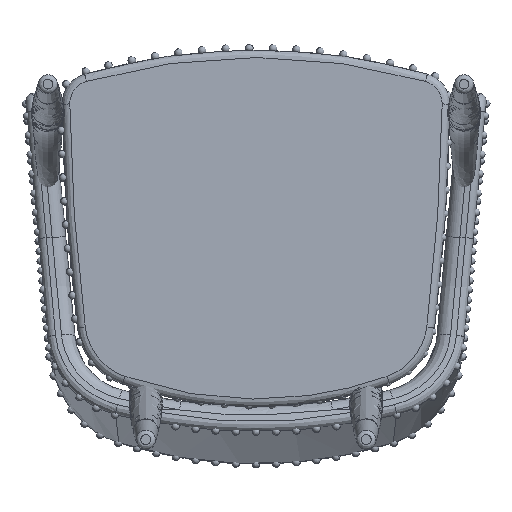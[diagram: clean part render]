
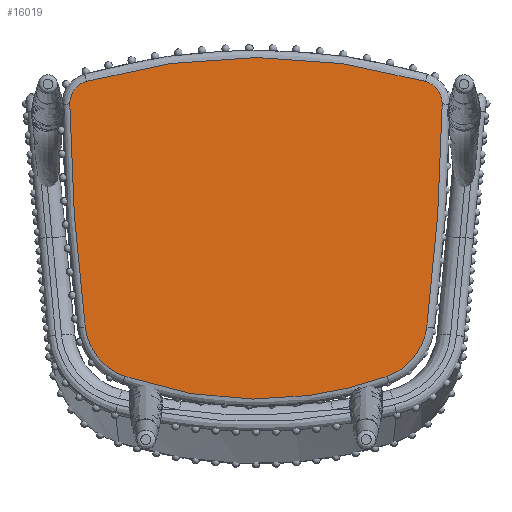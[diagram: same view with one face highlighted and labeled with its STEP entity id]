
A CAD part, front view. The second image highlights one B-rep face of the part: STEP entity #16019.
In plain terms, the highlighted planar face has unit normal (0, -0.999, 0.035).
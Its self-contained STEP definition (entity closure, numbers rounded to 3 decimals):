
#157 = VERTEX_POINT ( 'NONE', #1842 ) ;
#253 = CARTESIAN_POINT ( 'NONE',  ( 168.801, 345.255, -420.498 ) ) ;
#336 = ORIENTED_EDGE ( 'NONE', *, *, #8593, .T. ) ;
#746 =( BOUNDED_CURVE ( )  B_SPLINE_CURVE ( 3, ( #12979, #5281, #15896, #8080 ),
 .UNSPECIFIED., .F., .T. ) 
 B_SPLINE_CURVE_WITH_KNOTS ( ( 4, 4 ),
 ( 5.941, 6.625 ),
 .UNSPECIFIED. ) 
 CURVE ( )  GEOMETRIC_REPRESENTATION_ITEM ( )  RATIONAL_B_SPLINE_CURVE ( ( 1., 0.961, 0.961, 1. ) ) 
 REPRESENTATION_ITEM ( '' )  );
#798 =( BOUNDED_CURVE ( )  B_SPLINE_CURVE ( 3, ( #7278, #8560, #16245, #14061 ),
 .UNSPECIFIED., .F., .T. ) 
 B_SPLINE_CURVE_WITH_KNOTS ( ( 4, 4 ),
 ( 2.862, 3.421 ),
 .UNSPECIFIED. ) 
 CURVE ( )  GEOMETRIC_REPRESENTATION_ITEM ( )  RATIONAL_B_SPLINE_CURVE ( ( 1., 0.974, 0.974, 1. ) ) 
 REPRESENTATION_ITEM ( '' )  );
#1004 =( BOUNDED_CURVE ( )  B_SPLINE_CURVE ( 3, ( #11858, #7978, #14442, #3038 ),
 .UNSPECIFIED., .F., .T. ) 
 B_SPLINE_CURVE_WITH_KNOTS ( ( 4, 4 ),
 ( 4.701, 6.004 ),
 .UNSPECIFIED. ) 
 CURVE ( )  GEOMETRIC_REPRESENTATION_ITEM ( )  RATIONAL_B_SPLINE_CURVE ( ( 1., 0.863, 0.863, 1. ) ) 
 REPRESENTATION_ITEM ( '' )  );
#1094 = CARTESIAN_POINT ( 'NONE',  ( -232.082, 350.809, -261.462 ) ) ;
#1275 =( BOUNDED_CURVE ( )  B_SPLINE_CURVE ( 3, ( #12564, #3840, #1094, #10303 ),
 .UNSPECIFIED., .F., .T. ) 
 B_SPLINE_CURVE_WITH_KNOTS ( ( 4, 4 ),
 ( 4.724, 4.838 ),
 .UNSPECIFIED. ) 
 CURVE ( )  GEOMETRIC_REPRESENTATION_ITEM ( )  RATIONAL_B_SPLINE_CURVE ( ( 1., 0.999, 0.999, 1. ) ) 
 REPRESENTATION_ITEM ( '' )  );
#1539 = PLANE ( 'NONE',  #5764 ) ;
#1754 = VERTEX_POINT ( 'NONE', #9568 ) ;
#1842 = CARTESIAN_POINT ( 'NONE',  ( 218.095, 358.532, -40.302 ) ) ;
#1896 = FACE_OUTER_BOUND ( 'NONE', #3776, .T. ) ;
#1903 = CARTESIAN_POINT ( 'NONE',  ( -220.023, 347.479, -356.804 ) ) ;
#2302 = VERTEX_POINT ( 'NONE', #1903 ) ;
#2401 = CARTESIAN_POINT ( 'NONE',  ( 239.824, 357.512, -69.494 ) ) ;
#2554 = CARTESIAN_POINT ( 'NONE',  ( -197.283, 345.609, -410.357 ) ) ;
#2805 = CARTESIAN_POINT ( 'NONE',  ( -250., 359.939, 0. ) ) ;
#2811 = VERTEX_POINT ( 'NONE', #14909 ) ;
#2862 = DIRECTION ( 'NONE',  ( 0., -0.999, 0.035 ) ) ;
#2911 = DIRECTION ( 'NONE',  ( 0., -0.035, -0.999 ) ) ;
#3038 = CARTESIAN_POINT ( 'NONE',  ( 218.095, 358.532, -40.302 ) ) ;
#3776 = EDGE_LOOP ( 'NONE', ( #3989, #15403, #15190, #5864, #336, #7791, #16053, #12597 ) ) ;
#3840 = CARTESIAN_POINT ( 'NONE',  ( -238.689, 354.157, -165.588 ) ) ;
#3989 = ORIENTED_EDGE ( 'NONE', *, *, #9156, .T. ) ;
#4141 = EDGE_CURVE ( 'NONE', #157, #16230, #798, .T. ) ;
#4356 = EDGE_CURVE ( 'NONE', #2302, #8332, #8193, .T. ) ;
#4946 = CARTESIAN_POINT ( 'NONE',  ( -168.801, 345.255, -420.498 ) ) ;
#5141 = CARTESIAN_POINT ( 'NONE',  ( 238.689, 354.157, -165.588 ) ) ;
#5281 = CARTESIAN_POINT ( 'NONE',  ( -58.527, 343.884, -459.759 ) ) ;
#5293 = CARTESIAN_POINT ( 'NONE',  ( -168.801, 345.255, -420.498 ) ) ;
#5599 = CARTESIAN_POINT ( 'NONE',  ( 220.023, 347.479, -356.804 ) ) ;
#5713 = CARTESIAN_POINT ( 'NONE',  ( 197.283, 345.609, -410.357 ) ) ;
#5764 = AXIS2_PLACEMENT_3D ( 'NONE', #2805, #2862, #2911 ) ;
#5864 = ORIENTED_EDGE ( 'NONE', *, *, #13648, .T. ) ;
#6794 = VERTEX_POINT ( 'NONE', #253 ) ;
#7278 = CARTESIAN_POINT ( 'NONE',  ( 218.095, 358.532, -40.302 ) ) ;
#7791 = ORIENTED_EDGE ( 'NONE', *, *, #8642, .T. ) ;
#7978 = CARTESIAN_POINT ( 'NONE',  ( 239.99, 358.003, -55.445 ) ) ;
#8080 = CARTESIAN_POINT ( 'NONE',  ( 168.801, 345.255, -420.498 ) ) ;
#8193 =( BOUNDED_CURVE ( )  B_SPLINE_CURVE ( 3, ( #12649, #15357, #2554, #4946 ),
 .UNSPECIFIED., .F., .T. ) 
 B_SPLINE_CURVE_WITH_KNOTS ( ( 4, 4 ),
 ( 4.838, 5.941 ),
 .UNSPECIFIED. ) 
 CURVE ( )  GEOMETRIC_REPRESENTATION_ITEM ( )  RATIONAL_B_SPLINE_CURVE ( ( 1., 0.901, 0.901, 1. ) ) 
 REPRESENTATION_ITEM ( '' )  );
#8332 = VERTEX_POINT ( 'NONE', #5293 ) ;
#8560 = CARTESIAN_POINT ( 'NONE',  ( 74.625, 359.968, 0.837 ) ) ;
#8593 = EDGE_CURVE ( 'NONE', #2811, #13381, #12939, .T. ) ;
#8642 = EDGE_CURVE ( 'NONE', #13381, #157, #1004, .T. ) ;
#9156 = EDGE_CURVE ( 'NONE', #1754, #2302, #1275, .T. ) ;
#9508 = EDGE_CURVE ( 'NONE', #8332, #6794, #746, .T. ) ;
#9568 = CARTESIAN_POINT ( 'NONE',  ( -239.824, 357.512, -69.494 ) ) ;
#9970 = CARTESIAN_POINT ( 'NONE',  ( -218.095, 358.532, -40.302 ) ) ;
#10303 = CARTESIAN_POINT ( 'NONE',  ( -220.023, 347.479, -356.804 ) ) ;
#11449 =( BOUNDED_CURVE ( )  B_SPLINE_CURVE ( 3, ( #14603, #5713, #15947, #5599 ),
 .UNSPECIFIED., .F., .F. ) 
 B_SPLINE_CURVE_WITH_KNOTS ( ( 4, 4 ),
 ( 3.484, 4.587 ),
 .UNSPECIFIED. ) 
 CURVE ( )  GEOMETRIC_REPRESENTATION_ITEM ( )  RATIONAL_B_SPLINE_CURVE ( ( 1., 0.901, 0.901, 1. ) ) 
 REPRESENTATION_ITEM ( '' )  );
#11465 = CARTESIAN_POINT ( 'NONE',  ( 239.824, 357.512, -69.494 ) ) ;
#11858 = CARTESIAN_POINT ( 'NONE',  ( 239.824, 357.512, -69.494 ) ) ;
#11904 = CARTESIAN_POINT ( 'NONE',  ( -231.601, 358.396, -44.174 ) ) ;
#12564 = CARTESIAN_POINT ( 'NONE',  ( -239.824, 357.512, -69.494 ) ) ;
#12597 = ORIENTED_EDGE ( 'NONE', *, *, #16071, .T. ) ;
#12612 = CARTESIAN_POINT ( 'NONE',  ( 220.023, 347.479, -356.804 ) ) ;
#12649 = CARTESIAN_POINT ( 'NONE',  ( -220.023, 347.479, -356.804 ) ) ;
#12939 =( BOUNDED_CURVE ( )  B_SPLINE_CURVE ( 3, ( #12612, #16482, #5141, #2401 ),
 .UNSPECIFIED., .F., .T. ) 
 B_SPLINE_CURVE_WITH_KNOTS ( ( 4, 4 ),
 ( 1.445, 1.559 ),
 .UNSPECIFIED. ) 
 CURVE ( )  GEOMETRIC_REPRESENTATION_ITEM ( )  RATIONAL_B_SPLINE_CURVE ( ( 1., 0.999, 0.999, 1. ) ) 
 REPRESENTATION_ITEM ( '' )  );
#12979 = CARTESIAN_POINT ( 'NONE',  ( -168.801, 345.255, -420.498 ) ) ;
#13340 = CARTESIAN_POINT ( 'NONE',  ( -239.824, 357.512, -69.494 ) ) ;
#13381 = VERTEX_POINT ( 'NONE', #11465 ) ;
#13648 = EDGE_CURVE ( 'NONE', #6794, #2811, #11449, .T. ) ;
#13896 =( BOUNDED_CURVE ( )  B_SPLINE_CURVE ( 3, ( #15773, #11904, #15993, #13340 ),
 .UNSPECIFIED., .F., .F. ) 
 B_SPLINE_CURVE_WITH_KNOTS ( ( 4, 4 ),
 ( 3.421, 4.724 ),
 .UNSPECIFIED. ) 
 CURVE ( )  GEOMETRIC_REPRESENTATION_ITEM ( )  RATIONAL_B_SPLINE_CURVE ( ( 1., 0.863, 0.863, 1. ) ) 
 REPRESENTATION_ITEM ( '' )  );
#14061 = CARTESIAN_POINT ( 'NONE',  ( -218.095, 358.532, -40.302 ) ) ;
#14442 = CARTESIAN_POINT ( 'NONE',  ( 231.601, 358.396, -44.174 ) ) ;
#14603 = CARTESIAN_POINT ( 'NONE',  ( 168.801, 345.255, -420.498 ) ) ;
#14909 = CARTESIAN_POINT ( 'NONE',  ( 220.023, 347.479, -356.804 ) ) ;
#15190 = ORIENTED_EDGE ( 'NONE', *, *, #9508, .T. ) ;
#15357 = CARTESIAN_POINT ( 'NONE',  ( -216.229, 346.432, -386.798 ) ) ;
#15403 = ORIENTED_EDGE ( 'NONE', *, *, #4356, .T. ) ;
#15773 = CARTESIAN_POINT ( 'NONE',  ( -218.095, 358.532, -40.302 ) ) ;
#15896 = CARTESIAN_POINT ( 'NONE',  ( 58.527, 343.884, -459.759 ) ) ;
#15947 = CARTESIAN_POINT ( 'NONE',  ( 216.229, 346.432, -386.798 ) ) ;
#15993 = CARTESIAN_POINT ( 'NONE',  ( -239.99, 358.003, -55.445 ) ) ;
#16019 = ADVANCED_FACE ( 'NONE', ( #1896 ), #1539, .T. ) ;
#16053 = ORIENTED_EDGE ( 'NONE', *, *, #4141, .T. ) ;
#16071 = EDGE_CURVE ( 'NONE', #16230, #1754, #13896, .T. ) ;
#16230 = VERTEX_POINT ( 'NONE', #9970 ) ;
#16245 = CARTESIAN_POINT ( 'NONE',  ( -74.625, 359.968, 0.837 ) ) ;
#16482 = CARTESIAN_POINT ( 'NONE',  ( 232.082, 350.809, -261.462 ) ) ;
